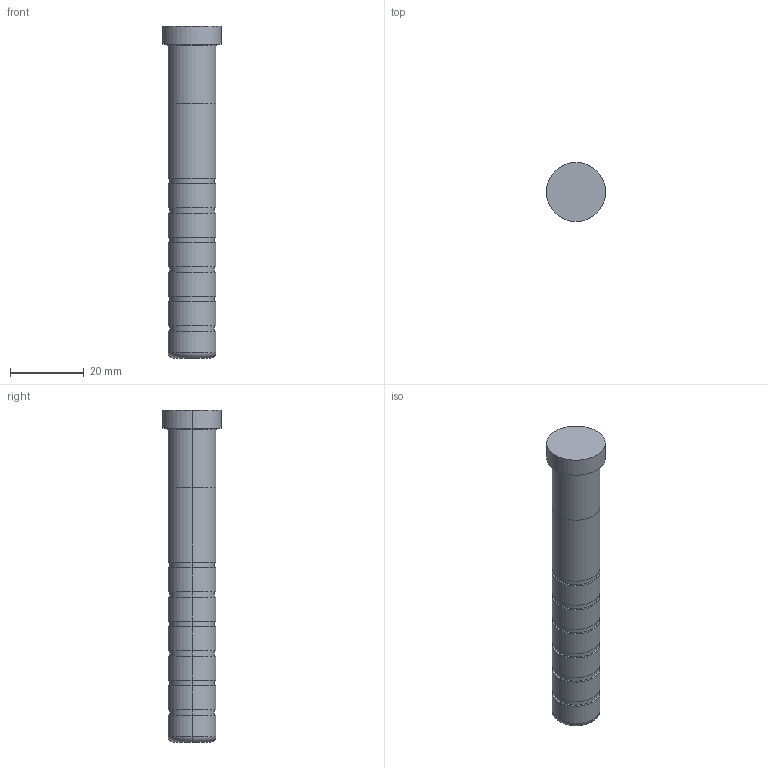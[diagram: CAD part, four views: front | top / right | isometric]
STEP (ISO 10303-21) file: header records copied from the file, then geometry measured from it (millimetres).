
FILE_DESCRIPTION(/* description */ (''),/* implementation_level */ '2;1');
FILE_NAME(/* name */ '3d_sgoh13-90_05199_r00.stp',/* time_stamp */ '2011-01-10T14:11:10+09:00',/* author */ ('MISUMI'),/* organization */ (''),/* preprocessor_version */ 'ST-DEVELOPER v11',/* originating_system */ 'UGS - NX 5.0',/* authorisation */ '');
FILE_SCHEMA (('CONFIG_CONTROL_DESIGN'));
Length unit declared in the file: millimetre
Products named in the file (1): 3d_sgoh13-90_05199_r00
Bounding box: 16 x 16 x 90 mm (x, y, z)
Volume: 12092.7 mm3; surface area: 4300.6 mm2
Topology: 1 solids, 1 shells, 49 faces, 96 edges, 62 vertices
Faces by surface type: cylinder 30, plane 15, torus 4
Entity records: 1374 total; most frequent: DIRECTION 262, CARTESIAN_POINT 208, ORIENTED_EDGE 192, AXIS2_PLACEMENT_3D 116, EDGE_CURVE 96, CIRCLE 66, EDGE_LOOP 62, VERTEX_POINT 62
